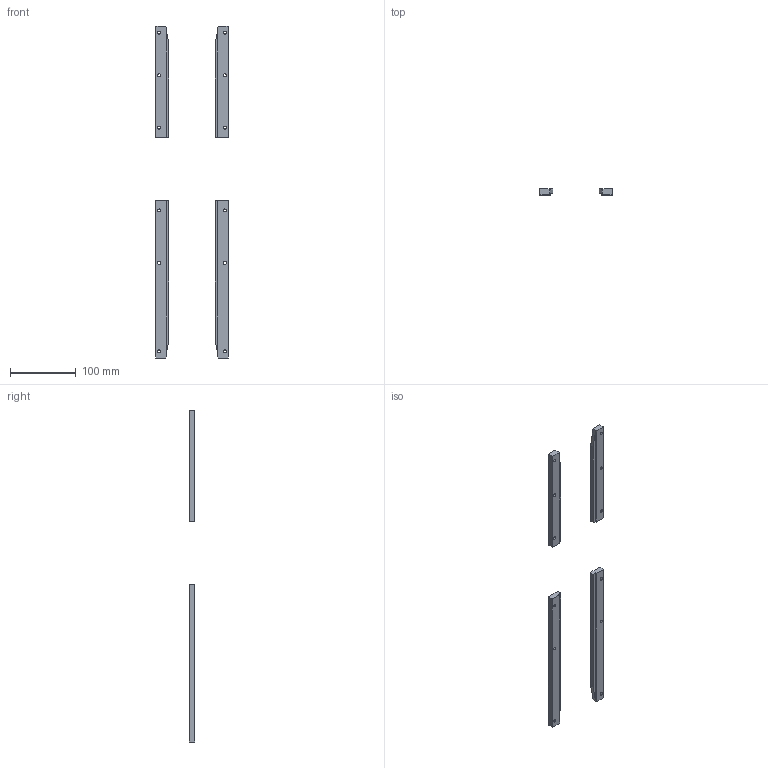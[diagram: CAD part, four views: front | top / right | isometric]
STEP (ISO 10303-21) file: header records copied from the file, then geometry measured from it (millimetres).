
FILE_DESCRIPTION (( 'STEP AP203' ), '1' );
FILE_NAME ('112.400.110.STEP', '2018-03-09T15:10:59', ( '' ), ( '' ), 'SwSTEP 2.0', 'SolidWorks 2016', '' );
FILE_SCHEMA (( 'CONFIG_CONTROL_DESIGN' ));
Length unit declared in the file: millimetre
Products named in the file (5): 112.400.110; 112.400.022; 112.400.019; 112.400.021; 112.400.020
Assembly tree (4 placements, depth 2):
  112.400.110
    112.400.019
    112.400.020
    112.400.021
    112.400.022
Bounding box: 110.29 x 8.6 x 506.33 mm (x, y, z)
Volume: 128000.3 mm3; surface area: 47948.6 mm2
Topology: 4 solids, 4 shells, 92 faces, 224 edges, 140 vertices
Faces by surface type: plane 44, cone 24, cylinder 24
Entity records: 3247 total; most frequent: DIRECTION 494, CARTESIAN_POINT 463, ORIENTED_EDGE 448, EDGE_CURVE 224, AXIS2_PLACEMENT_3D 171, LINE 152, VECTOR 152, VERTEX_POINT 140
